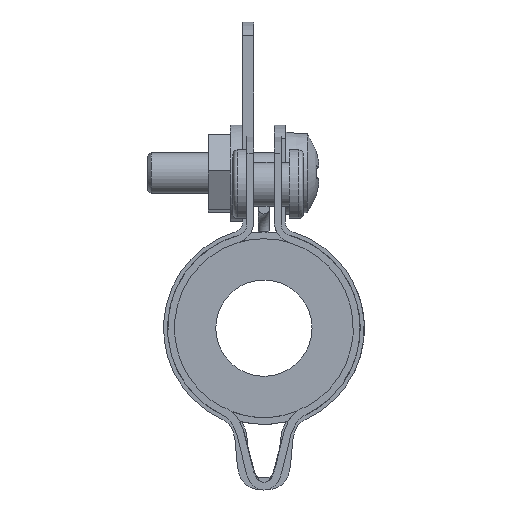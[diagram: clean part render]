
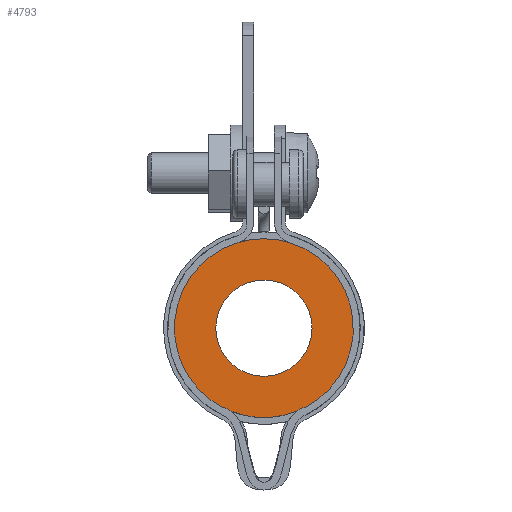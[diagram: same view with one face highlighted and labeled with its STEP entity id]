
A CAD part, front view. The second image highlights one B-rep face of the part: STEP entity #4793.
In plain terms, the highlighted planar face has unit normal (0, -1, 0).
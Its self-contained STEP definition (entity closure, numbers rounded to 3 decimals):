
#290=LINE($,#8301,#578);
#291=LINE($,#8308,#579);
#578=VECTOR($,#6444,0.245);
#579=VECTOR($,#6451,0.245);
#694=B_SPLINE_CURVE_WITH_KNOTS($,3,(#8289,#8290,#8291,#8292),
 .UNSPECIFIED.,.F.,.F.,(4,4),(0.,0.043),.UNSPECIFIED.);
#695=B_SPLINE_CURVE_WITH_KNOTS($,3,(#8296,#8297,#8298,#8299),
 .UNSPECIFIED.,.F.,.F.,(4,4),(0.123,0.165),
 .UNSPECIFIED.);
#818=FACE_BOUND($,#1478,.T.);
#1133=FACE_OUTER_BOUND($,#1477,.T.);
#1477=EDGE_LOOP($,(#3822,#3823,#3824,#3825,#3826,#3827,#3828,#3829));
#1478=EDGE_LOOP($,(#3830));
#1789=CIRCLE($,#5283,3.5);
#1790=CIRCLE($,#5286,6.5);
#1791=CIRCLE($,#5287,6.5);
#1792=CIRCLE($,#5288,6.5);
#1793=CIRCLE($,#5289,6.5);
#2184=VERTEX_POINT($,#8283);
#2185=VERTEX_POINT($,#8287);
#2186=VERTEX_POINT($,#8288);
#2187=VERTEX_POINT($,#8293);
#2188=VERTEX_POINT($,#8295);
#2189=VERTEX_POINT($,#8300);
#2190=VERTEX_POINT($,#8302);
#2191=VERTEX_POINT($,#8304);
#2192=VERTEX_POINT($,#8306);
#2759=EDGE_CURVE($,#2184,#2184,#1789,.T.);
#2760=EDGE_CURVE($,#2185,#2186,#694,.T.);
#2761=EDGE_CURVE($,#2186,#2187,#1790,.T.);
#2762=EDGE_CURVE($,#2187,#2188,#695,.T.);
#2763=EDGE_CURVE($,#2188,#2189,#290,.T.);
#2764=EDGE_CURVE($,#2189,#2190,#1791,.T.);
#2765=EDGE_CURVE($,#2190,#2191,#1792,.T.);
#2766=EDGE_CURVE($,#2191,#2192,#1793,.T.);
#2767=EDGE_CURVE($,#2192,#2185,#291,.T.);
#3822=ORIENTED_EDGE($,*,*,#2760,.T.);
#3823=ORIENTED_EDGE($,*,*,#2761,.T.);
#3824=ORIENTED_EDGE($,*,*,#2762,.T.);
#3825=ORIENTED_EDGE($,*,*,#2763,.T.);
#3826=ORIENTED_EDGE($,*,*,#2764,.T.);
#3827=ORIENTED_EDGE($,*,*,#2765,.T.);
#3828=ORIENTED_EDGE($,*,*,#2766,.T.);
#3829=ORIENTED_EDGE($,*,*,#2767,.T.);
#3830=ORIENTED_EDGE($,*,*,#2759,.T.);
#4286=PLANE($,#5285);
#4793=ADVANCED_FACE($,(#1133,#818),#4286,.T.);
#5283=AXIS2_PLACEMENT_3D($,#8284,#6436,#6437);
#5285=AXIS2_PLACEMENT_3D($,#8286,#6440,#6441);
#5286=AXIS2_PLACEMENT_3D($,#8294,#6442,#6443);
#5287=AXIS2_PLACEMENT_3D($,#8303,#6445,#6446);
#5288=AXIS2_PLACEMENT_3D($,#8305,#6447,#6448);
#5289=AXIS2_PLACEMENT_3D($,#8307,#6449,#6450);
#6436=DIRECTION('center_axis',(0.,1.,0.));
#6437=DIRECTION('ref_axis',(1.,0.,0.));
#6440=DIRECTION('center_axis',(0.,-1.,0.));
#6441=DIRECTION('ref_axis',(0.,0.,-1.));
#6442=DIRECTION('center_axis',(0.,-1.,0.));
#6443=DIRECTION('ref_axis',(1.,0.,0.));
#6444=DIRECTION($,(0.976,0.,0.22));
#6445=DIRECTION('center_axis',(0.,-1.,0.));
#6446=DIRECTION('ref_axis',(1.,0.,0.));
#6447=DIRECTION('center_axis',(0.,-1.,0.));
#6448=DIRECTION('ref_axis',(1.,0.,0.));
#6449=DIRECTION('center_axis',(0.,-1.,0.));
#6450=DIRECTION('ref_axis',(1.,0.,0.));
#6451=DIRECTION($,(0.976,0.,-0.22));
#8283=CARTESIAN_POINT('',(-3.5,0.,0.));
#8284=CARTESIAN_POINT('Origin',(0.,0.,0.));
#8286=CARTESIAN_POINT('Origin',(0.,0.,0.));
#8287=CARTESIAN_POINT('',(-2.761,0.,-5.82));
#8288=CARTESIAN_POINT('',(-2.401,0.,-6.04));
#8289=CARTESIAN_POINT('Ctrl Pts',(-2.761,0.,
-5.82));
#8290=CARTESIAN_POINT('Ctrl Pts',(-2.632,0.,
-5.881));
#8291=CARTESIAN_POINT('Ctrl Pts',(-2.512,0.,
-5.955));
#8292=CARTESIAN_POINT('Ctrl Pts',(-2.401,0.,
-6.04));
#8293=CARTESIAN_POINT('',(2.401,0.,-6.04));
#8294=CARTESIAN_POINT('Origin',(0.,0.,0.));
#8295=CARTESIAN_POINT('',(2.761,0.,-5.82));
#8296=CARTESIAN_POINT('Ctrl Pts',(2.401,0.,-6.04));
#8297=CARTESIAN_POINT('Ctrl Pts',(2.511,0.,-5.956));
#8298=CARTESIAN_POINT('Ctrl Pts',(2.631,0.,-5.882));
#8299=CARTESIAN_POINT('Ctrl Pts',(2.761,0.,-5.82));
#8300=CARTESIAN_POINT('',(3.,0.,-5.766));
#8301=CARTESIAN_POINT($,(2.071,0.,-5.976));
#8302=CARTESIAN_POINT('',(1.886,0.,6.22));
#8303=CARTESIAN_POINT('Origin',(0.,0.,0.));
#8304=CARTESIAN_POINT('',(-1.886,0.,6.22));
#8305=CARTESIAN_POINT('Origin',(0.,0.,0.));
#8306=CARTESIAN_POINT('',(-3.,0.,-5.766));
#8307=CARTESIAN_POINT('Origin',(0.,0.,0.));
#8308=CARTESIAN_POINT($,(-2.071,0.,-5.976));
